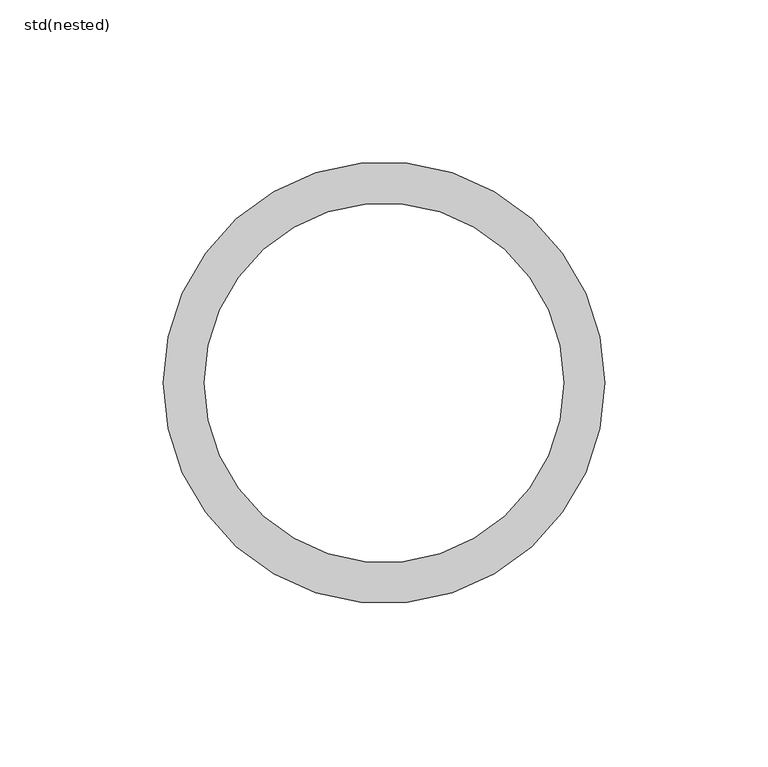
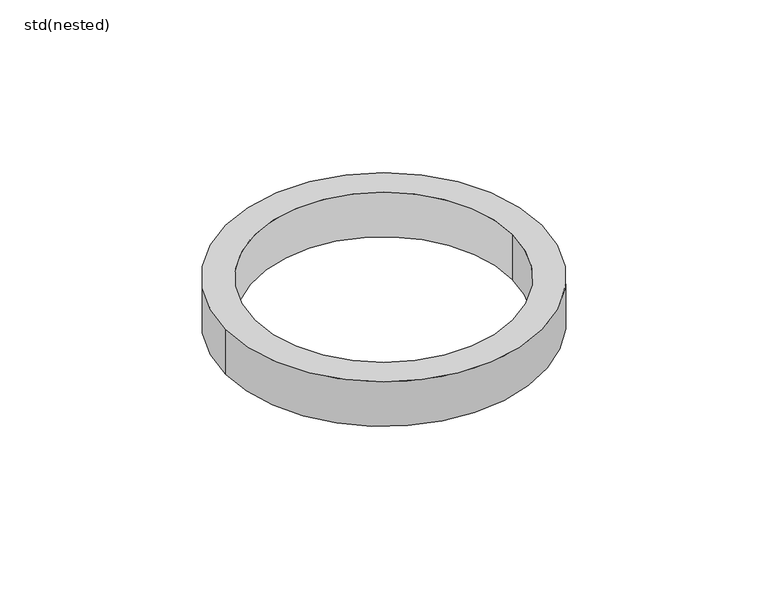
"""IFC4 building model written with IfcOpenShell, lengths in millimetres: valve geometry, ZZZ_do not use_ME_PE_WPB_Seal ring_ACO : std(nested)."""

from ifc_helpers import new_model, si_unit, point, origin, origin_with_axes, origin_2d, place, context, project, spatial, circle_curve, trimmed, segment, composite_curve, outline, extrude, source, transform, mapped, element, save


def std_nested_2e3c05b5(model_context):
    return source(origin(), model_context, "Body", "SweptSolid", [
        extrude(outline(composite_curve([segment(trimmed(circle_curve(origin_2d(), 67.5), [point((-67.5, 0.0))], [point((67.5, 0.0))], False, "CARTESIAN"), True, "CONTINUOUS"), segment(trimmed(circle_curve(origin_2d(), 67.5), [point((67.5, 0.0))], [point((-67.5, 0.0))], False, "CARTESIAN"), True, "CONTINUOUS")], self_intersect=False), holes=[composite_curve([segment(trimmed(circle_curve(origin_2d(), 55.0), [point((-55.0, 0.0))], [point((55.0, 0.0))], True, "CARTESIAN"), True, "CONTINUOUS"), segment(trimmed(circle_curve(origin_2d(), 55.0), [point((55.0, 0.0))], [point((-55.0, 0.0))], True, "CARTESIAN"), True, "CONTINUOUS")], self_intersect=False)]), origin_with_axes(), (0.0, 0.0, 1.0), 20.1915911),
    ])


if __name__ == "__main__":
    model = new_model("IFC4")
    model_context = context("Model", 3, world=origin())
    ifc_project = project(units=[si_unit("LENGTHUNIT", "METRE", prefix="MILLI")], contexts=[model_context])
    site = spatial("IfcSite", under=ifc_project)
    building = spatial("IfcBuilding", under=site)
    placement = place(None, origin())
    std_nested_shape = std_nested_2e3c05b5(model_context)
    element("IfcValve", 1, ObjectType="ZZZ_do not use_ME_PE_WPB_Seal ring_ACO : std(nested)", at=placement, inside=building, context=model_context, shape_type="MappedRepresentation", body=[
        mapped(std_nested_shape, transform((0.0, 0.0, 0.0), x_axis=(1.0, 0.0, 0.0), y_axis=(0.0, 1.0, 0.0), z_axis=(0.0, 0.0, 1.0))),
    ])
    save(model, "model.ifc")
